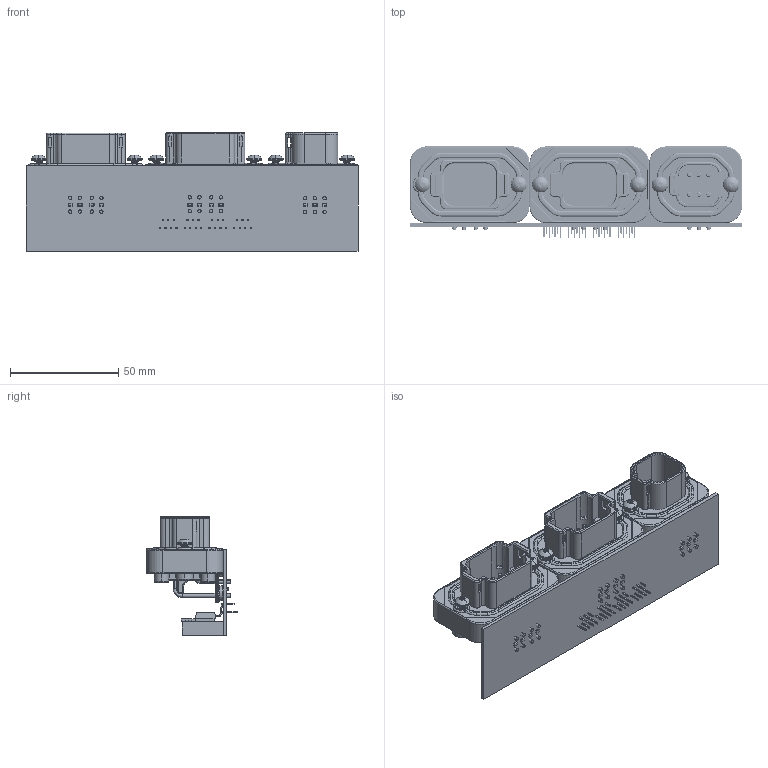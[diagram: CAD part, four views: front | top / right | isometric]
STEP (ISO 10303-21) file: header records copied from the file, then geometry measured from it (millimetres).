
FILE_DESCRIPTION (( 'STEP AP214' ), '1' );
FILE_NAME ('P4I4.STEP', '2018-06-01T20:50:04', ( '' ), ( '' ), 'SwSTEP 2.0', 'SolidWorks 2014', '' );
FILE_SCHEMA (( 'AUTOMOTIVE_DESIGN' ));
Length unit declared in the file: inch
Products named in the file (9): Part7^P4I4; User_Library-TO220-7-1; Part6^P4I4; SW3dPS-0805_SMD_Capacitor; Assem4^P4I4; c-dt13-6p-g003-99-3d; c-dt13-08pc-99-3d; 96001A264_18-8 SS TORX THREAD-FORMING SCREW FOR PLASTIC_96001A264; P4I4
Assembly tree (27 placements, depth 3):
  P4I4
    96001A264_18-8 SS TORX THREAD-FORMING SCREW FOR PLASTIC_96001A264  x6
    Assem4^P4I4
      c-dt13-08pc-99-3d  x2
      c-dt13-6p-g003-99-3d
    SW3dPS-0805_SMD_Capacitor  x11
    Part6^P4I4
    User_Library-TO220-7-1  x4
    Part7^P4I4
Bounding box: 153.03 x 41.98 x 54.78 mm (x, y, z)
Volume: 40555.3 mm3; surface area: 57091.6 mm2
Topology: 24 solids, 28 shells, 4519 faces, 11995 edges, 7565 vertices
Faces by surface type: plane 1637, cylinder 1417, bspline 1280, cone 148, torus 25, sphere 12
Entity records: 75597 total; most frequent: CARTESIAN_POINT 30049, ORIENTED_EDGE 9120, DIRECTION 7520, EDGE_CURVE 4561, VERTEX_POINT 2907, AXIS2_PLACEMENT_3D 2614, LINE 2292, VECTOR 2292
